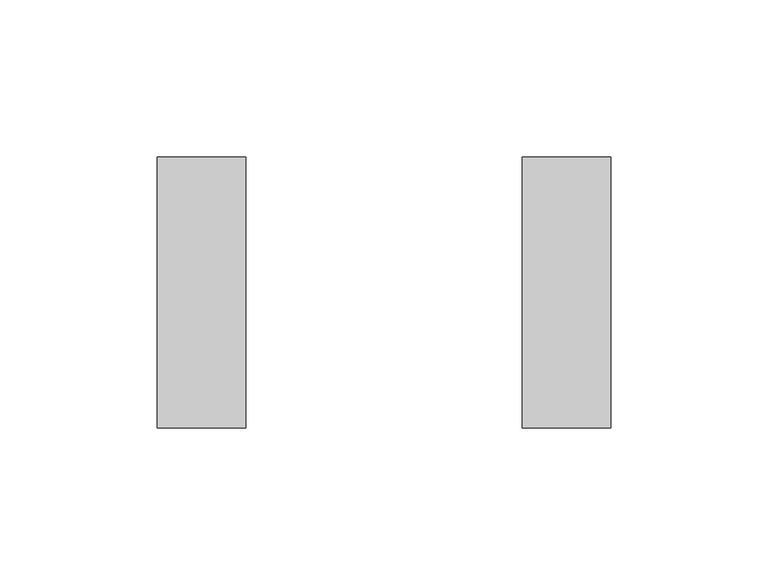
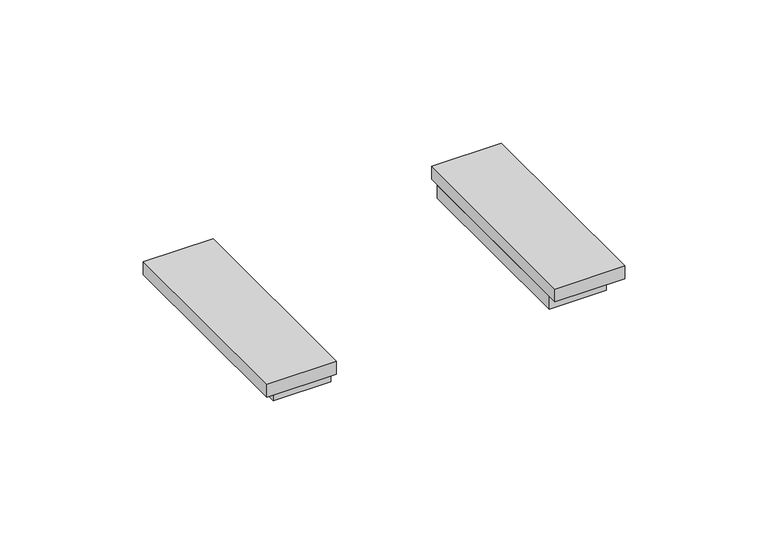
"""IFC4 building model written with IfcOpenShell, lengths in millimetres: proxy geometry, BT_LN_PlaccaSuperficiale_Placca : Living Now - Placca 3 Moduli."""

from ifc_helpers import new_model, si_unit, frame, origin, origin_with_axes, place, context, project, spatial, polyline, outline, extrude, source, transform, mapped, element, save


def electrical_equipment_0fe7602d(model_context):
    return source(origin(), model_context, "Body", "SweptSolid", [
        extrude(outline(polyline([(44.0, -43.0), (44.0, 43.0), (72.0, 43.0), (72.0, -43.0), (44.0, -43.0)])), frame((0.0, 0.0, 5.5), z_axis=(0.0, 0.0, 1.0), x_axis=(1.0, 0.0, 0.0)), (0.0, 0.0, 1.0), 5.5),
        extrude(outline(polyline([(-72.0, -43.0), (-72.0, 43.0), (-44.0, 43.0), (-44.0, -43.0), (-72.0, -43.0)])), frame((0.0, 0.0, 5.5), z_axis=(0.0, 0.0, 1.0), x_axis=(1.0, 0.0, 0.0)), (0.0, 0.0, 1.0), 5.5),
        extrude(outline(polyline([(44.0, -39.0), (44.0, 39.0), (67.0, 39.0), (67.0, -39.0), (44.0, -39.0)])), origin_with_axes(), (0.0, 0.0, 1.0), 5.5),
        extrude(outline(polyline([(-44.0, 39.0), (-44.0, -39.0), (-67.0, -39.0), (-67.0, 39.0), (-44.0, 39.0)])), origin_with_axes(), (0.0, 0.0, 1.0), 5.5),
    ])


if __name__ == "__main__":
    model = new_model("IFC4")
    model_context = context("Model", 3, world=origin())
    ifc_project = project(units=[si_unit("LENGTHUNIT", "METRE", prefix="MILLI")], contexts=[model_context])
    site = spatial("IfcSite", under=ifc_project)
    building = spatial("IfcBuilding", under=site)
    placement = place(None, origin())
    electrical_equipment_shape = electrical_equipment_0fe7602d(model_context)
    element("IfcBuildingElementProxy", 1, Name="BT_LN_PlaccaSuperficiale_Placca : Living Now - Placca 3 Moduli", ObjectType="BT_LN_PlaccaSuperficiale_Placca : Living Now - Placca 3 Moduli", at=placement, inside=building, context=model_context, shape_type="MappedRepresentation", body=[
        mapped(electrical_equipment_shape, transform((0.0, 0.0, 0.0), x_axis=(1.0, 0.0, 0.0), y_axis=(0.0, 1.0, 0.0), z_axis=(0.0, 0.0, 1.0))),
    ])
    save(model, "model.ifc")
